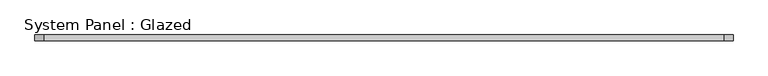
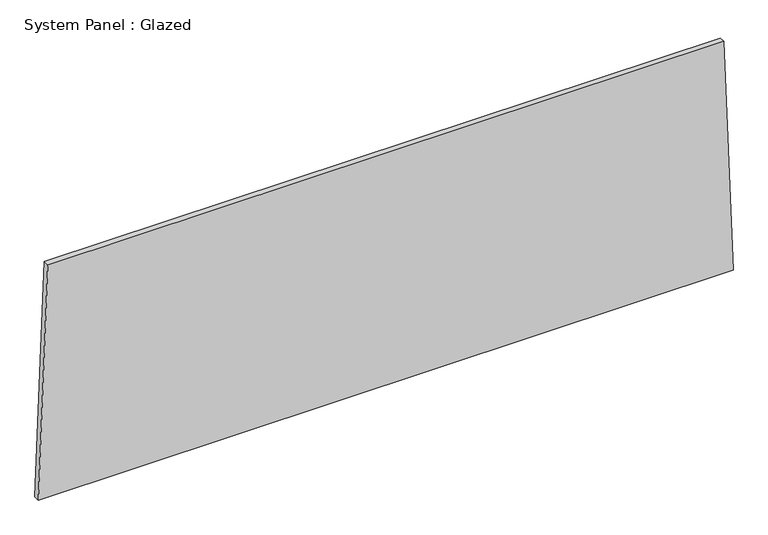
"""IFC4 building model written with IfcOpenShell, lengths in millimetres: plate geometry, System Panel : Glazed."""

from ifc_helpers import new_model, si_unit, frame, origin, place, context, project, spatial, polyline, outline, extrude, source, transform, mapped, element, save


def system_panel_glazed_566e1773(model_context):
    return source(origin(), model_context, "Body", "SweptSolid", [
        extrude(outline(polyline([(0.0, -1508.6830305), (0.0, 1508.6830305), (1066.0091554, 1467.6133258), (1066.0091554, -1467.6133258), (0.0, -1508.6830305)])), frame((0.0, -44.45, 0.0), z_axis=(0.0, 1.0, 0.0), x_axis=(0.0, 0.0, 1.0)), (0.0, 0.0, 1.0), 25.4),
    ])


if __name__ == "__main__":
    model = new_model("IFC4")
    model_context = context("Model", 3, world=origin())
    ifc_project = project(units=[si_unit("LENGTHUNIT", "METRE", prefix="MILLI")], contexts=[model_context])
    site = spatial("IfcSite", under=ifc_project)
    building = spatial("IfcBuilding", under=site)
    placement = place(None, origin())
    system_panel_glazed_shape = system_panel_glazed_566e1773(model_context)
    element("IfcPlate", 1, ObjectType="System Panel : Glazed", at=placement, inside=building, context=model_context, shape_type="MappedRepresentation", body=[
        mapped(system_panel_glazed_shape, transform((0.0, 0.0, 0.0), x_axis=(1.0, 0.0, 0.0), y_axis=(0.0, 1.0, 0.0), z_axis=(0.0, 0.0, 1.0))),
    ])
    save(model, "model.ifc")
